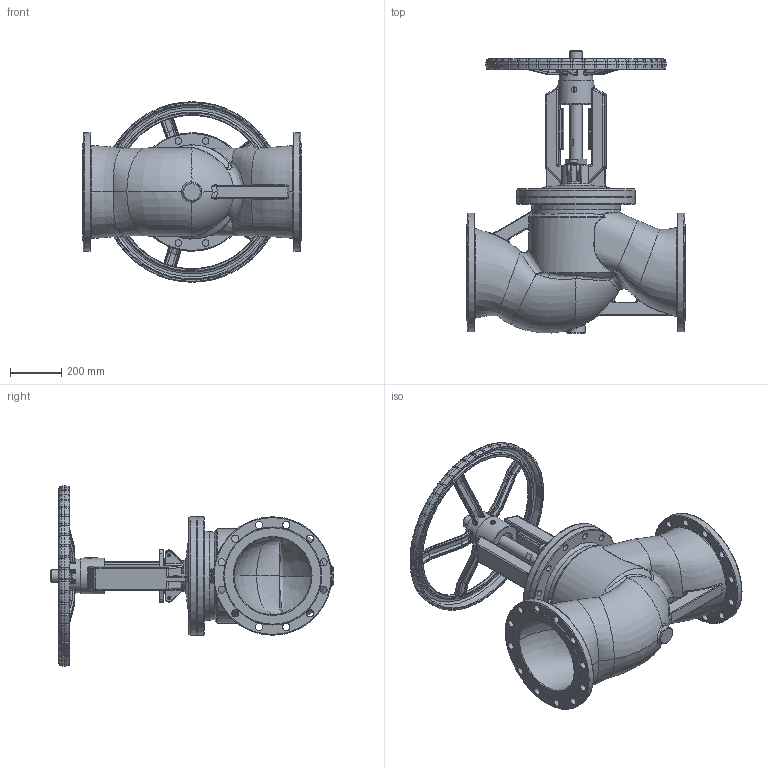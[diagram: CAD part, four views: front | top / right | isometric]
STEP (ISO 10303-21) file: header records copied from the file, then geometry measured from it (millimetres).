
FILE_DESCRIPTION(/* description */ ('STEP AP203'),/* implementation_level */ '2;1');
FILE_NAME(/* name */ '',/* time_stamp */ '2025-02-21T11:35:31+07:00',/* author */ ('Eva'),/* organization */ (''),/* preprocessor_version */ 'ST-DEVELOPER v20',/* originating_system */ 'Autodesk Inventor 2025',/* authorisation */ '');
FILE_SCHEMA (('AUTOMOTIVE_DESIGN { 1 0 10303 214 3 1 1 }'));
Products named in the file (7): 截止阀300; 截止阀300阀盖; 德标截止阀杆螺母300; 德标截止压盖300; 德标截止300阀杆; 300; 600手轮-300
Assembly tree (6 placements, depth 2):
  截止阀300
    截止阀300阀盖
    德标截止阀杆螺母300
    德标截止压盖300
    德标截止300阀杆
    300
    600手轮-300
Bounding box: 850 x 1098.39 x 700 mm (x, y, z)
Volume: 42870921.1 mm3; surface area: 4332444.5 mm2
Topology: 6 solids, 6 shells, 1383 faces, 3467 edges, 2048 vertices
Faces by surface type: cylinder 341, bspline 268, plane 268, cone 243, torus 221, sphere 42
Full cylindrical faces by diameter (mm): 7 x1, 12 x4, 20 x1, 25 x12, 28 x24, 36 x1, 39 x1, 48 x4, 52 x2, 59 x1, 60 x1, 68 x2, 80 x3, 100 x1, 108 x1, 110 x1, 132 x1, 140 x1, 270 x1, 300 x1, 302.5 x1, 306 x1, 342 x1, 350 x2, 460 x4
Entity records: 110629 total; most frequent: CARTESIAN_POINT 79569, ORIENTED_EDGE 6804, DIRECTION 6078, EDGE_CURVE 3402, AXIS2_PLACEMENT_3D 2550, VERTEX_POINT 2048, EDGE_LOOP 1516, FACE_OUTER_BOUND 1383
